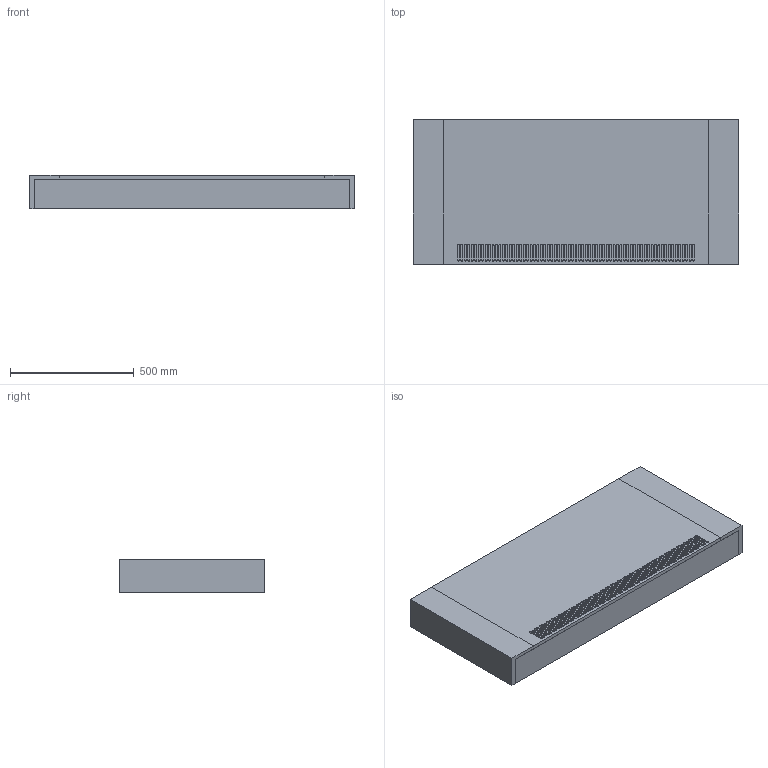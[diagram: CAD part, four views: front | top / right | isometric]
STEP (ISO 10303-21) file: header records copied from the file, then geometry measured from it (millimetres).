
FILE_DESCRIPTION (( 'STEP AP214' ), '1' );
FILE_NAME ('PFWSL_square_model04_4-pipe_v2.STEP', '2024-11-11T13:34:55', ( '' ), ( '' ), 'SwSTEP 2.0', 'SolidWorks 2023', '' );
FILE_SCHEMA (( 'AUTOMOTIVE_DESIGN' ));
Length unit declared in the file: inch
Products named in the file (1): PFWSL_square_model04_4-pipe_v2
Bounding box: 1314.45 x 582.61 x 134.94 mm (x, y, z)
Volume: 81913340 mm3; surface area: 4107986.1 mm2
Topology: 25 solids, 25 shells, 602 faces, 1590 edges, 1056 vertices
Faces by surface type: plane 360, cylinder 234, torus 8
Entity records: 19345 total; most frequent: DIRECTION 3276, CARTESIAN_POINT 3249, ORIENTED_EDGE 3180, EDGE_CURVE 1590, LINE 1110, VECTOR 1110, AXIS2_PLACEMENT_3D 1083, VERTEX_POINT 1056
